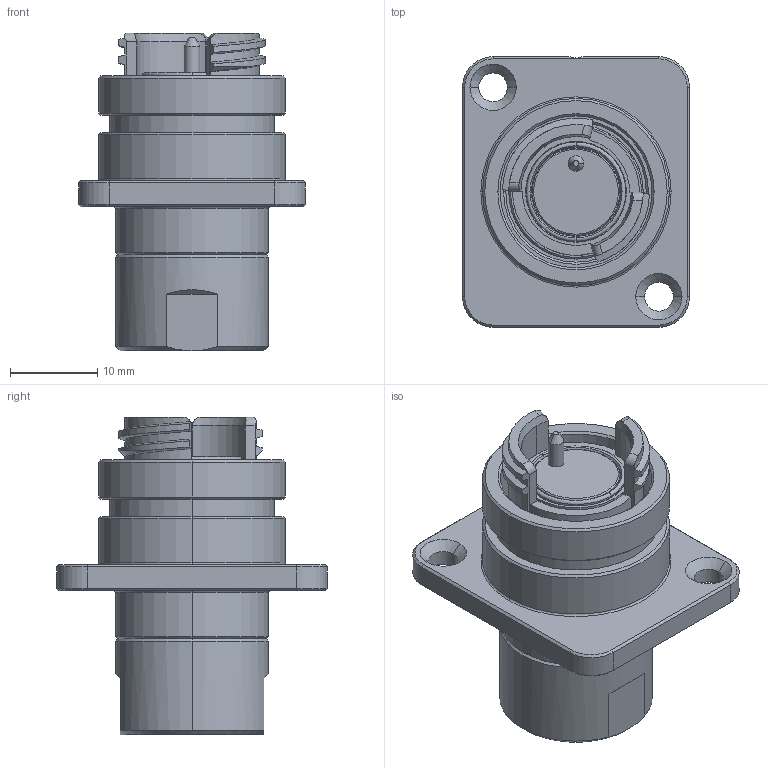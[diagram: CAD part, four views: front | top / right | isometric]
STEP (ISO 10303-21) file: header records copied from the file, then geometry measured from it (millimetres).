
FILE_DESCRIPTION (( 'STEP AP214' ), '1' );
FILE_NAME ('QMICRO-RXXX-XXXX-SXX.STEP', '2025-05-02T23:46:58', ( '' ), ( '' ), 'SwSTEP 2.0', 'SolidWorks 2024', '' );
FILE_SCHEMA (( 'AUTOMOTIVE_DESIGN' ));
Length unit declared in the file: inch
Products named in the file (1): QMICRO-RXXX-XXXX-SXX
Bounding box: 26 x 31 x 36.4 mm (x, y, z)
Volume: 10118 mm3; surface area: 4835.8 mm2
Topology: 1 solids, 5 shells, 199 faces, 459 edges, 281 vertices
Faces by surface type: cylinder 64, plane 60, cone 51, bspline 16, torus 8
Entity records: 8737 total; most frequent: CARTESIAN_POINT 4362, ORIENTED_EDGE 918, DIRECTION 894, EDGE_CURVE 459, AXIS2_PLACEMENT_3D 347, VERTEX_POINT 281, EDGE_LOOP 214, VECTOR 200
